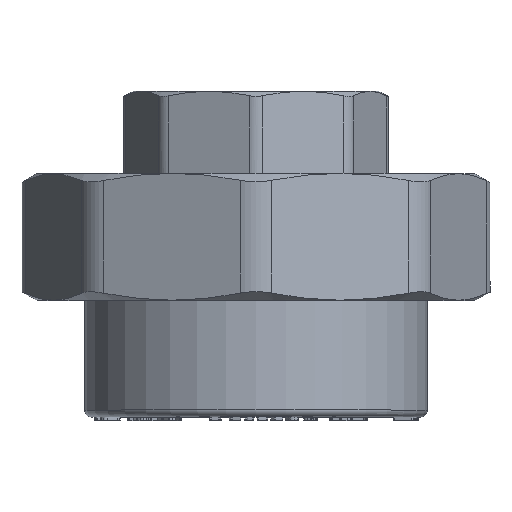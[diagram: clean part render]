
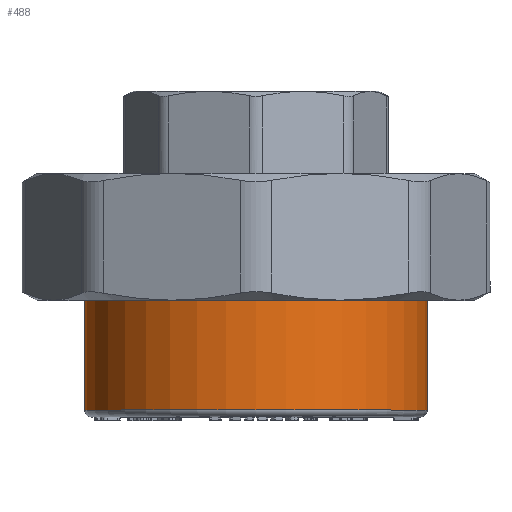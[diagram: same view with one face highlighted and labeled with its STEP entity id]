
A CAD part, top view. The second image highlights one B-rep face of the part: STEP entity #488.
In plain terms, the highlighted cylindrical face has radius 25 mm (diameter 50 mm), a full revolution.
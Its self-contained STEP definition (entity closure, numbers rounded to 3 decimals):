
#488=ADVANCED_FACE('',(#3730,#3732),#3734,.T.);
#3730=FACE_OUTER_BOUND('',#3731,.T.);
#3731=EDGE_LOOP('',(#9038));
#3732=FACE_OUTER_BOUND('',#3733,.T.);
#3733=EDGE_LOOP('',(#9039));
#3734=CYLINDRICAL_SURFACE('',#3735,25.);
#3735=AXIS2_PLACEMENT_3D('',#3736,#3737,#3738);
#3736=CARTESIAN_POINT('',(0.,0.,0.));
#3737=DIRECTION('',(0.,1.,0.));
#3738=DIRECTION('',(-1.,0.,0.));
#9038=ORIENTED_EDGE('',*,*,#12979,.F.);
#9039=ORIENTED_EDGE('',*,*,#12107,.T.);
#12107=EDGE_CURVE('',#14719,#14719,#14720,.T.);
#12979=EDGE_CURVE('',#16032,#16032,#16033,.T.);
#14719=VERTEX_POINT('',#19242);
#14720=CIRCLE('',#19243,25.);
#16032=VERTEX_POINT('',#22948);
#16033=CIRCLE('',#22949,25.);
#19242=CARTESIAN_POINT('',(-25.,1.,0.));
#19243=AXIS2_PLACEMENT_3D('',#19244,#19245,#19246);
#19244=CARTESIAN_POINT('',(0.,1.,0.));
#19245=DIRECTION('',(0.,1.,0.));
#19246=DIRECTION('',(-1.,0.,0.));
#22948=CARTESIAN_POINT('',(-25.,21.,0.));
#22949=AXIS2_PLACEMENT_3D('',#22950,#22951,#22952);
#22950=CARTESIAN_POINT('',(0.,21.,0.));
#22951=DIRECTION('',(0.,1.,0.));
#22952=DIRECTION('',(-1.,0.,0.));
